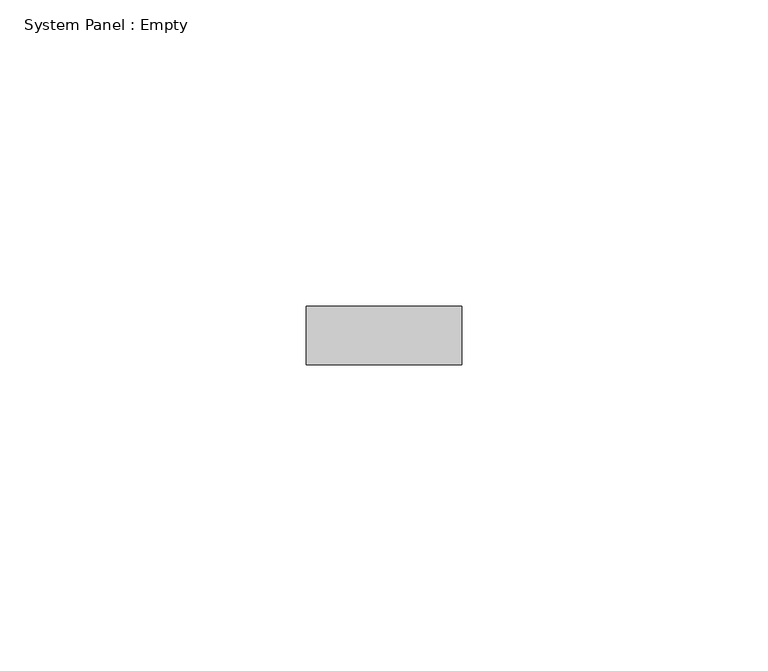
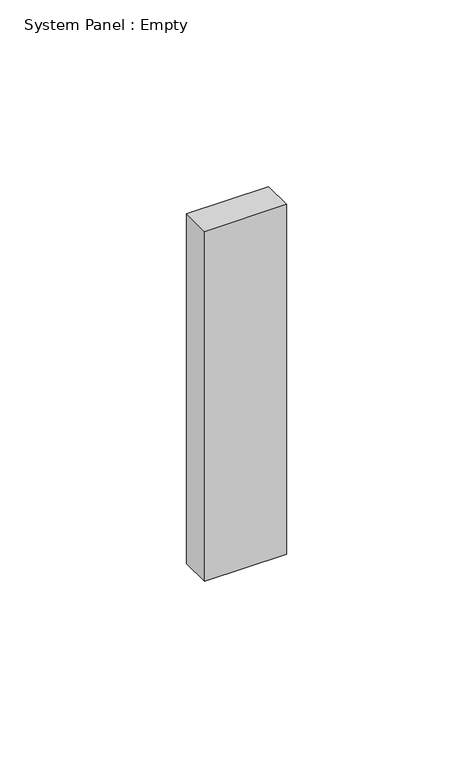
"""IFC4 building model written with IfcOpenShell, lengths in millimetres: plate geometry, System Panel : Empty."""

from ifc_helpers import new_model, si_unit, origin, origin_with_axes, place, context, project, spatial, polyline, outline, extrude, source, transform, mapped, element, save


def system_panel_empty_0b0c6d62(model_context):
    return source(origin(), model_context, "Body", "SweptSolid", [
        extrude(outline(polyline([(12.6999998, -4.7625), (-12.6999998, -4.7625), (-12.6999998, 4.7625), (12.6999998, 4.7625), (12.6999998, -4.7625)])), origin_with_axes(), (0.0, 0.0, 1.0), 114.3),
    ])


if __name__ == "__main__":
    model = new_model("IFC4")
    model_context = context("Model", 3, world=origin())
    ifc_project = project(units=[si_unit("LENGTHUNIT", "METRE", prefix="MILLI")], contexts=[model_context])
    site = spatial("IfcSite", under=ifc_project)
    building = spatial("IfcBuilding", under=site)
    placement = place(None, origin())
    system_panel_empty_shape = system_panel_empty_0b0c6d62(model_context)
    element("IfcPlate", 1, ObjectType="System Panel : Empty", at=placement, inside=building, context=model_context, shape_type="MappedRepresentation", body=[
        mapped(system_panel_empty_shape, transform((0.0, 0.0, 0.0), x_axis=(1.0, 0.0, 0.0), y_axis=(0.0, 1.0, 0.0), z_axis=(0.0, 0.0, 1.0))),
    ])
    save(model, "model.ifc")
